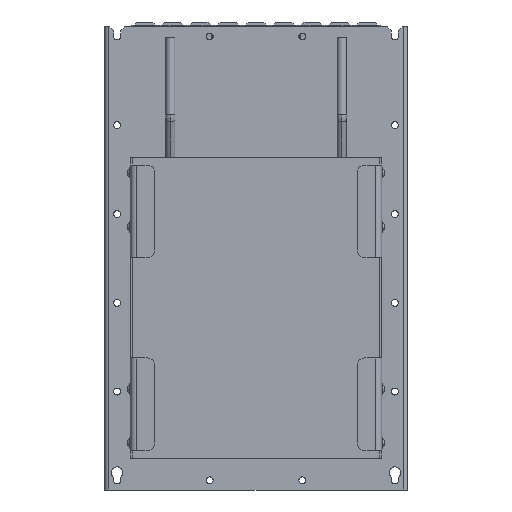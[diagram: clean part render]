
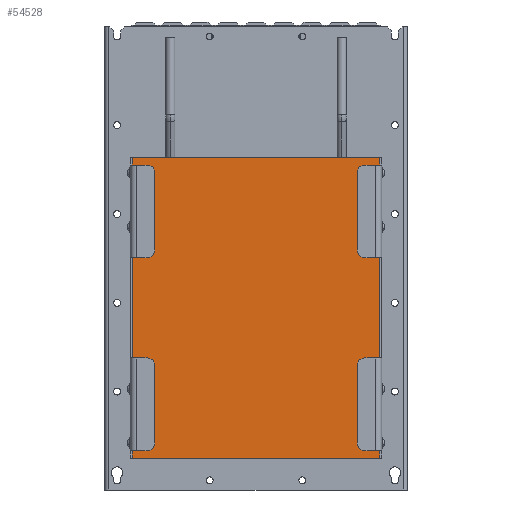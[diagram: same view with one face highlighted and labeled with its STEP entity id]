
A CAD part, front view. The second image highlights one B-rep face of the part: STEP entity #54528.
In plain terms, the highlighted planar face has unit normal (0, -1, 0).
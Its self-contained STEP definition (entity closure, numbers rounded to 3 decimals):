
#574 = EDGE_CURVE ( 'NONE', #48440, #44087, #42573, .T. ) ;
#970 = VECTOR ( 'NONE', #63338, 1000. ) ;
#2063 = ORIENTED_EDGE ( 'NONE', *, *, #3302, .T. ) ;
#2357 = DIRECTION ( 'NONE',  ( 0., -1., 0. ) ) ;
#2839 = ORIENTED_EDGE ( 'NONE', *, *, #19543, .T. ) ;
#3302 = EDGE_CURVE ( 'NONE', #55503, #46360, #42296, .T. ) ;
#3623 = ORIENTED_EDGE ( 'NONE', *, *, #92966, .T. ) ;
#4290 = EDGE_CURVE ( 'NONE', #42519, #30766, #7972, .T. ) ;
#4482 = CARTESIAN_POINT ( 'NONE',  ( -160., -25., 51. ) ) ;
#5002 = VECTOR ( 'NONE', #43992, 1000. ) ;
#5107 = VERTEX_POINT ( 'NONE', #30828 ) ;
#5934 = DIRECTION ( 'NONE',  ( -1., 0., 0. ) ) ;
#6625 = LINE ( 'NONE', #63632, #81925 ) ;
#7972 = LINE ( 'NONE', #62399, #18073 ) ;
#9281 = EDGE_LOOP ( 'NONE', ( #56826, #92361, #2063, #28953, #25473, #26338, #3623, #76970, #11277, #24259, #9367, #2839 ) ) ;
#9367 = ORIENTED_EDGE ( 'NONE', *, *, #82697, .T. ) ;
#9612 = DIRECTION ( 'NONE',  ( 0., 0., -1. ) ) ;
#11277 = ORIENTED_EDGE ( 'NONE', *, *, #18576, .T. ) ;
#11698 = LINE ( 'NONE', #35999, #84806 ) ;
#13864 = CARTESIAN_POINT ( 'NONE',  ( -160., -25., 431. ) ) ;
#14384 = CARTESIAN_POINT ( 'NONE',  ( -160., -25., 171. ) ) ;
#18073 = VECTOR ( 'NONE', #94649, 1000. ) ;
#18576 = EDGE_CURVE ( 'NONE', #30766, #70486, #39102, .T. ) ;
#19543 = EDGE_CURVE ( 'NONE', #102294, #73206, #11698, .T. ) ;
#21954 = VECTOR ( 'NONE', #90538, 1000. ) ;
#23011 = DIRECTION ( 'NONE',  ( 1., 0., 0. ) ) ;
#23781 = DIRECTION ( 'NONE',  ( 0., 0., -1. ) ) ;
#24259 = ORIENTED_EDGE ( 'NONE', *, *, #29544, .T. ) ;
#25473 = ORIENTED_EDGE ( 'NONE', *, *, #32293, .T. ) ;
#26338 = ORIENTED_EDGE ( 'NONE', *, *, #574, .T. ) ;
#27643 = LINE ( 'NONE', #68800, #5002 ) ;
#28953 = ORIENTED_EDGE ( 'NONE', *, *, #33634, .T. ) ;
#29544 = EDGE_CURVE ( 'NONE', #70486, #92959, #78464, .T. ) ;
#30766 = VERTEX_POINT ( 'NONE', #42480 ) ;
#30828 = CARTESIAN_POINT ( 'NONE',  ( 160., -25., 301. ) ) ;
#31149 = LINE ( 'NONE', #46983, #970 ) ;
#32293 = EDGE_CURVE ( 'NONE', #5107, #48440, #31149, .T. ) ;
#32341 = LINE ( 'NONE', #64522, #33021 ) ;
#33021 = VECTOR ( 'NONE', #88834, 1000. ) ;
#33634 = EDGE_CURVE ( 'NONE', #46360, #5107, #32341, .T. ) ;
#34586 = DIRECTION ( 'NONE',  ( 1., 0., 0. ) ) ;
#35999 = CARTESIAN_POINT ( 'NONE',  ( -160., -25., 41. ) ) ;
#37694 = EDGE_CURVE ( 'NONE', #73206, #85548, #6625, .T. ) ;
#39102 = LINE ( 'NONE', #103576, #101593 ) ;
#40726 = EDGE_CURVE ( 'NONE', #85548, #55503, #27643, .T. ) ;
#42296 = LINE ( 'NONE', #96213, #100745 ) ;
#42480 = CARTESIAN_POINT ( 'NONE',  ( -160., -25., 421. ) ) ;
#42519 = VERTEX_POINT ( 'NONE', #100567 ) ;
#42573 = LINE ( 'NONE', #74797, #66769 ) ;
#43992 = DIRECTION ( 'NONE',  ( 0., 0., 1. ) ) ;
#44087 = VERTEX_POINT ( 'NONE', #78237 ) ;
#46089 = CARTESIAN_POINT ( 'NONE',  ( 160., -25., 171. ) ) ;
#46360 = VERTEX_POINT ( 'NONE', #46089 ) ;
#46983 = CARTESIAN_POINT ( 'NONE',  ( 160., -25., 41. ) ) ;
#48440 = VERTEX_POINT ( 'NONE', #54504 ) ;
#50436 = FACE_OUTER_BOUND ( 'NONE', #9281, .T. ) ;
#54504 = CARTESIAN_POINT ( 'NONE',  ( 160., -25., 421. ) ) ;
#54528 = ADVANCED_FACE ( 'NONE', ( #50436 ), #84214, .T. ) ;
#55503 = VERTEX_POINT ( 'NONE', #81110 ) ;
#56587 = DIRECTION ( 'NONE',  ( 0., 0., 1. ) ) ;
#56826 = ORIENTED_EDGE ( 'NONE', *, *, #37694, .T. ) ;
#58838 = CARTESIAN_POINT ( 'NONE',  ( -160., -25., 41. ) ) ;
#60364 = CARTESIAN_POINT ( 'NONE',  ( -160., -25., 41. ) ) ;
#61600 = CARTESIAN_POINT ( 'NONE',  ( 160., -25., 41. ) ) ;
#62399 = CARTESIAN_POINT ( 'NONE',  ( -160., -25., 41. ) ) ;
#63338 = DIRECTION ( 'NONE',  ( 0., 0., 1. ) ) ;
#63632 = CARTESIAN_POINT ( 'NONE',  ( -160., -25., 41. ) ) ;
#64522 = CARTESIAN_POINT ( 'NONE',  ( 160., -25., 41. ) ) ;
#66769 = VECTOR ( 'NONE', #91666, 1000. ) ;
#67412 = CARTESIAN_POINT ( 'NONE',  ( -160., -25., 301. ) ) ;
#68800 = CARTESIAN_POINT ( 'NONE',  ( 160., -25., 41. ) ) ;
#70486 = VERTEX_POINT ( 'NONE', #67412 ) ;
#73206 = VERTEX_POINT ( 'NONE', #60364 ) ;
#74797 = CARTESIAN_POINT ( 'NONE',  ( 160., -25., 41. ) ) ;
#75274 = CARTESIAN_POINT ( 'NONE',  ( 0., -25., 41. ) ) ;
#76970 = ORIENTED_EDGE ( 'NONE', *, *, #4290, .T. ) ;
#78237 = CARTESIAN_POINT ( 'NONE',  ( 160., -25., 431. ) ) ;
#78464 = LINE ( 'NONE', #78979, #84671 ) ;
#78810 = LINE ( 'NONE', #13864, #98725 ) ;
#78979 = CARTESIAN_POINT ( 'NONE',  ( -160., -25., 41. ) ) ;
#81110 = CARTESIAN_POINT ( 'NONE',  ( 160., -25., 51. ) ) ;
#81925 = VECTOR ( 'NONE', #23011, 1000. ) ;
#82697 = EDGE_CURVE ( 'NONE', #92959, #102294, #91051, .T. ) ;
#84214 = PLANE ( 'NONE',  #93570 ) ;
#84671 = VECTOR ( 'NONE', #95356, 1000. ) ;
#84806 = VECTOR ( 'NONE', #9612, 1000. ) ;
#85548 = VERTEX_POINT ( 'NONE', #61600 ) ;
#88834 = DIRECTION ( 'NONE',  ( 0., 0., 1. ) ) ;
#90538 = DIRECTION ( 'NONE',  ( 0., 0., -1. ) ) ;
#91051 = LINE ( 'NONE', #58838, #21954 ) ;
#91666 = DIRECTION ( 'NONE',  ( 0., 0., 1. ) ) ;
#92361 = ORIENTED_EDGE ( 'NONE', *, *, #40726, .T. ) ;
#92959 = VERTEX_POINT ( 'NONE', #14384 ) ;
#92966 = EDGE_CURVE ( 'NONE', #44087, #42519, #78810, .T. ) ;
#93570 = AXIS2_PLACEMENT_3D ( 'NONE', #75274, #2357, #34586 ) ;
#94649 = DIRECTION ( 'NONE',  ( 0., 0., -1. ) ) ;
#95356 = DIRECTION ( 'NONE',  ( 0., 0., -1. ) ) ;
#96213 = CARTESIAN_POINT ( 'NONE',  ( 160., -25., 41. ) ) ;
#98725 = VECTOR ( 'NONE', #5934, 1000. ) ;
#100567 = CARTESIAN_POINT ( 'NONE',  ( -160., -25., 431. ) ) ;
#100745 = VECTOR ( 'NONE', #56587, 1000. ) ;
#101593 = VECTOR ( 'NONE', #23781, 1000. ) ;
#102294 = VERTEX_POINT ( 'NONE', #4482 ) ;
#103576 = CARTESIAN_POINT ( 'NONE',  ( -160., -25., 41. ) ) ;
